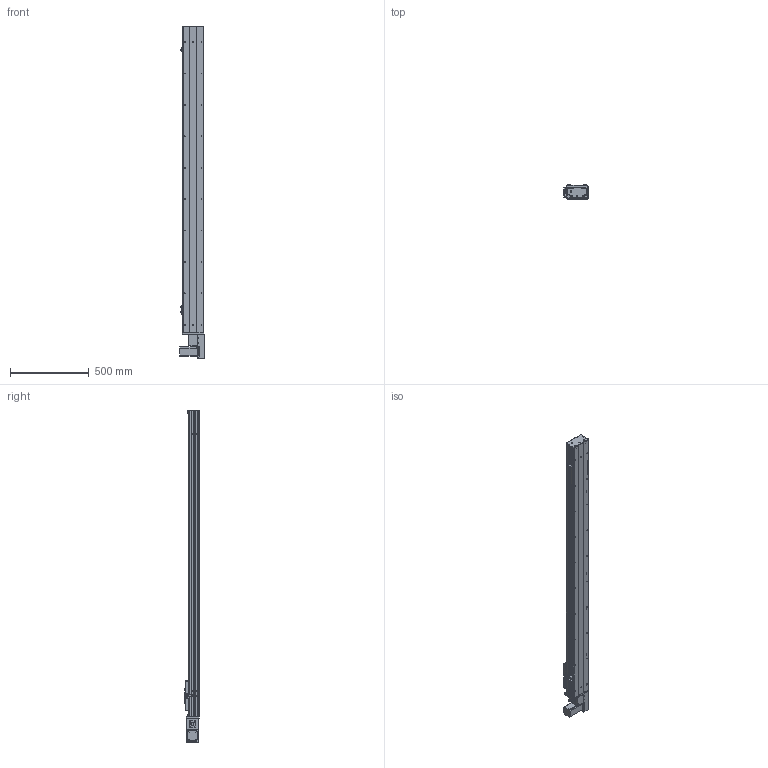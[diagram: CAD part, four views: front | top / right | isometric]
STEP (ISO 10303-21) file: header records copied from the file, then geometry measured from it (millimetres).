
FILE_DESCRIPTION (( 'STEP AP203' ), '1' );
FILE_NAME ('Y135CB-D90-S1650-BL-P400W.STEP', '2020-02-18T01:23:36', ( '微软用户' ), ( '微软中国' ), 'SwSTEP 2.0', 'SolidWorks 2017', '' );
FILE_SCHEMA (( 'CONFIG_CONTROL_DESIGN' ));
Length unit declared in the file: millimetre
Products named in the file (18): Y俋欶BR----; Y135C-陔俋离換覜結え-; 0B-埴倛裔啣; 5C--俋欶; 0B-源倛裔啣; C-雄赽釱--; 0B-萇儂楊擘啣; Y135CB-耜裔; Y135CB-D90-S1650-BL-P400W; san松下电机400不带刹车----; 135CB---遴掛极.-; 5CB --掛极耜裔啣-; 35CB---喘謫眊楊擘啣; C-詩湍揤踡え-陔; Y10B--々湍喘謫眊--666; 135CB--詩湍-CE; Y10B-耜蚾蟀諉啣----; Y100-135俋离換覜ん--
Assembly tree (21 placements, depth 2):
  Y135CB-D90-S1650-BL-P400W
    Y135CB-耜裔
    135CB---遴掛极.-
    35CB---喘謫眊楊擘啣
    Y10B--々湍喘謫眊--666
    Y10B-耜蚾蟀諉啣----
    Y俋欶BR----
    0B-埴倛裔啣
    0B-源倛裔啣
    0B-萇儂楊擘啣
    san松下电机400不带刹车----
    5CB --掛极耜裔啣-  x2
    C-詩湍揤踡え-陔  x2
    135CB--詩湍-CE
    Y100-135俋离換覜ん--  x3
    Y135C-陔俋离換覜結え-
    5C--俋欶
    C-雄赽釱--
Bounding box: 157.5 x 91 x 2114.5 mm (x, y, z)
Volume: 6075351.6 mm3; surface area: 2394939 mm2
Topology: 21 solids, 21 shells, 957 faces, 2581 edges, 1710 vertices
Faces by surface type: cylinder 483, plane 458, cone 16
Entity records: 29947 total; most frequent: DIRECTION 4973, CARTESIAN_POINT 4944, ORIENTED_EDGE 4638, EDGE_CURVE 2319, AXIS2_PLACEMENT_3D 1815, VERTEX_POINT 1538, VECTOR 1343, LINE 1343
